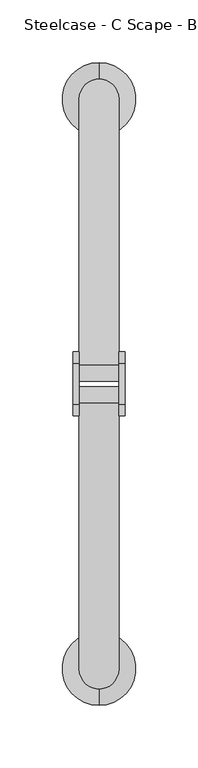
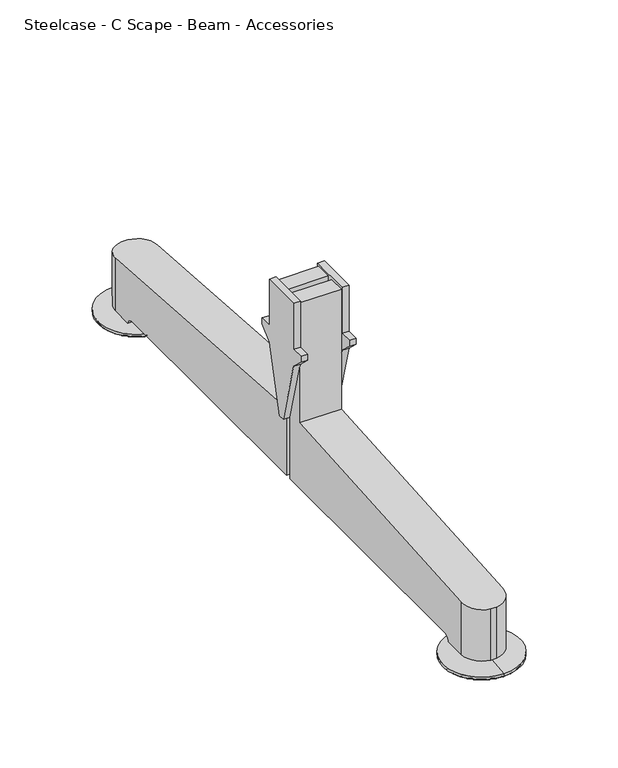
"""IFC4 building model written with IfcOpenShell, lengths in millimetres: furniture geometry, Steelcase - C Scape - Beam - Accessories : Beam Foor T."""

from ifc_helpers import new_model, si_unit, point, frame, origin, place, context, project, spatial, polyline, circle_curve, ellipse_curve, trimmed, source, transform, mapped, element, save
from ifc_brep_helpers import plane_surface, cylinder_surface, revolved_surface, advanced_brep


def steelcase_c_scape_beam_accessories_165df708(model_context):
    return source(origin(), model_context, "Body", "AdvancedBrep", [
        advanced_brep(
        [(86.3596898, 237.0625704, 8.1788), (86.3596898, 218.3235091, 8.1788), (86.3596898, 227.6930398, 8.1788), (86.3596898, 237.0625704, 6.3780266), (86.3596898, 218.3235091, 6.3780266), (86.3596898, 257.08722, 4.4952124), (86.3596898, 198.2988595, 4.4952124), (86.3596898, 257.08722, 2.4919794), (86.3596898, 198.2988595, 2.4919794), (86.3596898, 256.1924817, 1.9543664), (86.3596898, 199.1935978, 1.9543664), (86.3596898, 255.6762602, 1.2438485), (86.3596898, 199.7098193, 1.2438485), (86.3596898, 253.6061487, 0.0), (86.3596898, 201.7799309, 0.0), (86.3596898, 227.6930398, 0.0)],
        [
            (0, 1, circle_curve(frame((86.3596898, 227.6930398, 8.1788), z_axis=(0.0, 0.0, 1.0), x_axis=(0.0, -1.0, 0.0)), 9.3695306)),
            (1, 2),
            (2, 0),
            (1, 0, circle_curve(frame((86.3596898, 227.6930398, 8.1788), z_axis=(0.0, 0.0, 1.0), x_axis=(0.0, -1.0, 0.0)), 9.3695306)),
            (0, 3),
            (3, 4, circle_curve(frame((86.3596898, 227.6930398, 6.3780266), z_axis=(0.0, 0.0, 1.0), x_axis=(0.0, -1.0, 0.0)), 9.3695306)),
            (4, 1),
            (4, 3, circle_curve(frame((86.3596898, 227.6930398, 6.3780266), z_axis=(0.0, 0.0, 1.0), x_axis=(0.0, -1.0, 0.0)), 9.3695306)),
            (3, 5, circle_curve(frame((86.3596898, 218.5205959, -298.2523056), z_axis=(-1.0, 0.0, 0.0), x_axis=(0.0, -1.0, 0.0)), 305.1941089)),
            (5, 6, circle_curve(frame((86.3596898, 227.6930398, 4.4952124), z_axis=(0.0, 0.0, 1.0), x_axis=(0.0, -1.0, 0.0)), 29.3941803)),
            (6, 4, circle_curve(frame((86.3596898, 236.8654837, -298.2523056), z_axis=(-1.0, 0.0, 0.0), x_axis=(0.0, 1.0, 0.0)), 305.1941089)),
            (6, 5, circle_curve(frame((86.3596898, 227.6930398, 4.4952124), z_axis=(0.0, 0.0, 1.0), x_axis=(0.0, -1.0, 0.0)), 29.3941803)),
            (5, 7),
            (7, 8, circle_curve(frame((86.3596898, 227.6930398, 2.4919794), z_axis=(0.0, 0.0, 1.0), x_axis=(0.0, -1.0, 0.0)), 29.3941803)),
            (8, 6),
            (8, 7, circle_curve(frame((86.3596898, 227.6930398, 2.4919794), z_axis=(0.0, 0.0, 1.0), x_axis=(0.0, -1.0, 0.0)), 29.3941803)),
            (7, 9, circle_curve(frame((86.3596898, 257.0906771, 1.4728721), z_axis=(1.0, 0.0, 0.0), x_axis=(0.0, -1.0, 0.0)), 1.0191132)),
            (9, 10, circle_curve(frame((86.3596898, 227.6930398, 1.9543664), z_axis=(0.0, 0.0, 1.0), x_axis=(0.0, -1.0, 0.0)), 28.4994419)),
            (10, 8, circle_curve(frame((86.3596898, 198.2954025, 1.4728721), z_axis=(1.0, 0.0, 0.0), x_axis=(0.0, 1.0, 0.0)), 1.0191132)),
            (10, 9, circle_curve(frame((86.3596898, 227.6930398, 1.9543664), z_axis=(0.0, 0.0, 1.0), x_axis=(0.0, -1.0, 0.0)), 28.4994419)),
            (9, 11, circle_curve(frame((86.3596898, 254.4948288, 2.644996), z_axis=(-1.0, 0.0, 0.0), x_axis=(0.0, -1.0, 0.0)), 1.832756)),
            (11, 12, circle_curve(frame((86.3596898, 227.6930398, 1.2438485), z_axis=(0.0, 0.0, 1.0), x_axis=(0.0, -1.0, 0.0)), 27.9832205)),
            (12, 10, circle_curve(frame((86.3596898, 200.8912507, 2.644996), z_axis=(-1.0, 0.0, 0.0), x_axis=(0.0, 1.0, 0.0)), 1.832756)),
            (12, 11, circle_curve(frame((86.3596898, 227.6930398, 1.2438485), z_axis=(0.0, 0.0, 1.0), x_axis=(0.0, -1.0, 0.0)), 27.9832205)),
            (11, 13),
            (13, 14, circle_curve(frame((86.3596898, 227.6930398, 0.0), z_axis=(0.0, 0.0, 1.0), x_axis=(0.0, -1.0, 0.0)), 25.9131089)),
            (14, 12),
            (14, 13, circle_curve(frame((86.3596898, 227.6930398, 0.0), z_axis=(0.0, 0.0, 1.0), x_axis=(0.0, -1.0, 0.0)), 25.9131089)),
            (13, 15),
            (15, 14),
        ],
        [
            plane_surface(frame((86.3596898, 227.6930398, 8.1788), z_axis=(0.0, 0.0, 1.0), x_axis=(0.0, -1.0, 0.0))),
            cylinder_surface(frame((86.3596898, 227.6930398, 0.8789446), z_axis=(0.0, 0.0, -1.0), x_axis=(0.0, -1.0, 0.0)), 9.3695306),
            revolved_surface(trimmed(ellipse_curve(frame((86.3596898, 236.8654837, -298.2523056), z_axis=(1.0, 0.0, 0.0), x_axis=(0.0, 1.0, 0.0)), 305.1941089, 305.1941089), [point((86.3596898, 218.3235091, 6.3780266))], [point((86.3596898, 198.2988595, 4.4952124))], True, "CARTESIAN"), (86.3596898, 227.6930398, 0.8789446), (0.0, 0.0, -1.0)),
            cylinder_surface(frame((86.3596898, 227.6930398, 0.8789446), z_axis=(0.0, 0.0, -1.0), x_axis=(0.0, -1.0, 0.0)), 29.3941803),
            revolved_surface(trimmed(ellipse_curve(frame((86.3596898, 198.2954025, 1.4728721), z_axis=(-1.0, 0.0, 0.0), x_axis=(0.0, 1.0, 0.0)), 1.0191132, 1.0191132), [point((86.3596898, 198.2988595, 2.4919794))], [point((86.3596898, 199.1935978, 1.9543664))], True, "CARTESIAN"), (86.3596898, 227.6930398, 0.8789446), (0.0, 0.0, -1.0)),
            revolved_surface(trimmed(ellipse_curve(frame((86.3596898, 200.8912507, 2.644996), z_axis=(1.0, 0.0, 0.0), x_axis=(0.0, 1.0, 0.0)), 1.832756, 1.832756), [point((86.3596898, 199.1935978, 1.9543664))], [point((86.3596898, 199.7098193, 1.2438485))], True, "CARTESIAN"), (86.3596898, 227.6930398, 0.8789446), (0.0, 0.0, -1.0)),
            revolved_surface(polyline([(86.3596898, 199.7098193, 1.2438485), (86.3596898, 201.7799309, 0.0)]), (86.3596898, 227.6930398, 0.8789446), (0.0, 0.0, -1.0)),
            plane_surface(frame((86.3596898, 227.6930398, 0.0), z_axis=(0.0, 0.0, -1.0), x_axis=(0.0, -1.0, 0.0))),
        ],
        [
            (0, [[1, 2, 3]]),
            (0, [[-2, 4, -3]]),
            (1, [[-1, 5, 6, 7]]),
            (1, [[-4, -7, 8, -5]]),
            (2, [[-6, 9, 10, 11]]),
            (2, [[-8, -11, 12, -9]]),
            (3, [[-10, 13, 14, 15]]),
            (3, [[-12, -15, 16, -13]]),
            (4, [[-14, 17, 18, 19]]),
            (4, [[-16, -19, 20, -17]]),
            (5, [[-18, 21, 22, 23]]),
            (5, [[-20, -23, 24, -21]]),
            (6, [[-22, 25, 26, 27]]),
            (6, [[-24, -27, 28, -25]]),
            (7, [[-26, 29, 30]]),
            (7, [[-28, -30, -29]]),
        ],
    ),
        advanced_brep(
        [(86.3596898, -253.6061487, 0.0), (86.3596898, -201.7799309, 0.0), (86.3596898, -227.6930398, 0.0), (86.3596898, -255.6762602, 1.2438485), (86.3596898, -199.7098193, 1.2438485), (86.3596898, -256.1924817, 1.9543664), (86.3596898, -199.1935978, 1.9543664), (86.3596898, -257.08722, 2.4919794), (86.3596898, -198.2988595, 2.4919794), (86.3596898, -257.08722, 4.4952124), (86.3596898, -198.2988595, 4.4952124), (86.3596898, -237.0625704, 6.3780266), (86.3596898, -218.3235091, 6.3780266), (86.3596898, -237.0625704, 8.1788), (86.3596898, -218.3235091, 8.1788), (86.3596898, -227.6930398, 8.1788)],
        [
            (0, 1, circle_curve(frame((86.3596898, -227.6930398, 0.0), z_axis=(0.0, 0.0, -1.0), x_axis=(0.0, 1.0, 0.0)), 25.9131089)),
            (1, 2),
            (2, 0),
            (1, 0, circle_curve(frame((86.3596898, -227.6930398, 0.0), z_axis=(0.0, 0.0, -1.0), x_axis=(0.0, 1.0, 0.0)), 25.9131089)),
            (0, 3),
            (3, 4, circle_curve(frame((86.3596898, -227.6930398, 1.2438485), z_axis=(0.0, 0.0, -1.0), x_axis=(0.0, 1.0, 0.0)), 27.9832205)),
            (4, 1),
            (4, 3, circle_curve(frame((86.3596898, -227.6930398, 1.2438485), z_axis=(0.0, 0.0, -1.0), x_axis=(0.0, 1.0, 0.0)), 27.9832205)),
            (3, 5, circle_curve(frame((86.3596898, -254.4948288, 2.644996), z_axis=(-1.0, 0.0, 0.0), x_axis=(0.0, 1.0, 0.0)), 1.832756)),
            (5, 6, circle_curve(frame((86.3596898, -227.6930398, 1.9543664), z_axis=(0.0, 0.0, -1.0), x_axis=(0.0, 1.0, 0.0)), 28.4994419)),
            (6, 4, circle_curve(frame((86.3596898, -200.8912507, 2.644996), z_axis=(-1.0, 0.0, 0.0), x_axis=(0.0, -1.0, 0.0)), 1.832756)),
            (6, 5, circle_curve(frame((86.3596898, -227.6930398, 1.9543664), z_axis=(0.0, 0.0, -1.0), x_axis=(0.0, 1.0, 0.0)), 28.4994419)),
            (5, 7, circle_curve(frame((86.3596898, -257.0906771, 1.4728721), z_axis=(1.0, 0.0, 0.0), x_axis=(0.0, 1.0, 0.0)), 1.0191132)),
            (7, 8, circle_curve(frame((86.3596898, -227.6930398, 2.4919794), z_axis=(0.0, 0.0, -1.0), x_axis=(0.0, 1.0, 0.0)), 29.3941803)),
            (8, 6, circle_curve(frame((86.3596898, -198.2954025, 1.4728721), z_axis=(1.0, 0.0, 0.0), x_axis=(0.0, -1.0, 0.0)), 1.0191132)),
            (8, 7, circle_curve(frame((86.3596898, -227.6930398, 2.4919794), z_axis=(0.0, 0.0, -1.0), x_axis=(0.0, 1.0, 0.0)), 29.3941803)),
            (7, 9),
            (9, 10, circle_curve(frame((86.3596898, -227.6930398, 4.4952124), z_axis=(0.0, 0.0, -1.0), x_axis=(0.0, 1.0, 0.0)), 29.3941803)),
            (10, 8),
            (10, 9, circle_curve(frame((86.3596898, -227.6930398, 4.4952124), z_axis=(0.0, 0.0, -1.0), x_axis=(0.0, 1.0, 0.0)), 29.3941803)),
            (9, 11, circle_curve(frame((86.3596898, -218.5205959, -298.2523056), z_axis=(-1.0, 0.0, 0.0), x_axis=(0.0, 1.0, 0.0)), 305.1941089)),
            (11, 12, circle_curve(frame((86.3596898, -227.6930398, 6.3780266), z_axis=(0.0, 0.0, -1.0), x_axis=(0.0, 1.0, 0.0)), 9.3695306)),
            (12, 10, circle_curve(frame((86.3596898, -236.8654837, -298.2523056), z_axis=(-1.0, 0.0, 0.0), x_axis=(0.0, -1.0, 0.0)), 305.1941089)),
            (12, 11, circle_curve(frame((86.3596898, -227.6930398, 6.3780266), z_axis=(0.0, 0.0, -1.0), x_axis=(0.0, 1.0, 0.0)), 9.3695306)),
            (11, 13),
            (13, 14, circle_curve(frame((86.3596898, -227.6930398, 8.1788), z_axis=(0.0, 0.0, -1.0), x_axis=(0.0, 1.0, 0.0)), 9.3695306)),
            (14, 12),
            (14, 13, circle_curve(frame((86.3596898, -227.6930398, 8.1788), z_axis=(0.0, 0.0, -1.0), x_axis=(0.0, 1.0, 0.0)), 9.3695306)),
            (13, 15),
            (15, 14),
        ],
        [
            plane_surface(frame((86.3596898, -227.6930398, 0.0), z_axis=(0.0, 0.0, -1.0), x_axis=(0.0, 1.0, 0.0))),
            revolved_surface(polyline([(86.3596898, -201.7799309, 0.0), (86.3596898, -199.7098193, 1.2438485)]), (86.3596898, -227.6930398, 0.8789446), (0.0, 0.0, 1.0)),
            revolved_surface(trimmed(ellipse_curve(frame((86.3596898, -200.8912507, 2.644996), z_axis=(1.0, 0.0, 0.0), x_axis=(0.0, -1.0, 0.0)), 1.832756, 1.832756), [point((86.3596898, -199.7098193, 1.2438485))], [point((86.3596898, -199.1935978, 1.9543664))], True, "CARTESIAN"), (86.3596898, -227.6930398, 0.8789446), (0.0, 0.0, 1.0)),
            revolved_surface(trimmed(ellipse_curve(frame((86.3596898, -198.2954025, 1.4728721), z_axis=(-1.0, 0.0, 0.0), x_axis=(0.0, -1.0, 0.0)), 1.0191132, 1.0191132), [point((86.3596898, -199.1935978, 1.9543664))], [point((86.3596898, -198.2988595, 2.4919794))], True, "CARTESIAN"), (86.3596898, -227.6930398, 0.8789446), (0.0, 0.0, 1.0)),
            cylinder_surface(frame((86.3596898, -227.6930398, 0.8789446), z_axis=(0.0, 0.0, 1.0), x_axis=(0.0, 1.0, 0.0)), 29.3941803),
            revolved_surface(trimmed(ellipse_curve(frame((86.3596898, -236.8654837, -298.2523056), z_axis=(1.0, 0.0, 0.0), x_axis=(0.0, -1.0, 0.0)), 305.1941089, 305.1941089), [point((86.3596898, -198.2988595, 4.4952124))], [point((86.3596898, -218.3235091, 6.3780266))], True, "CARTESIAN"), (86.3596898, -227.6930398, 0.8789446), (0.0, 0.0, 1.0)),
            cylinder_surface(frame((86.3596898, -227.6930398, 0.8789446), z_axis=(0.0, 0.0, 1.0), x_axis=(0.0, 1.0, 0.0)), 9.3695306),
            plane_surface(frame((86.3596898, -227.6930398, 8.1788), z_axis=(0.0, 0.0, 1.0), x_axis=(0.0, 1.0, 0.0))),
        ],
        [
            (0, [[1, 2, 3]]),
            (0, [[-2, 4, -3]]),
            (1, [[-1, 5, 6, 7]]),
            (1, [[-4, -7, 8, -5]]),
            (2, [[-6, 9, 10, 11]]),
            (2, [[-8, -11, 12, -9]]),
            (3, [[-10, 13, 14, 15]]),
            (3, [[-12, -15, 16, -13]]),
            (4, [[-14, 17, 18, 19]]),
            (4, [[-16, -19, 20, -17]]),
            (5, [[-18, 21, 22, 23]]),
            (5, [[-20, -23, 24, -21]]),
            (6, [[-22, 25, 26, 27]]),
            (6, [[-24, -27, 28, -25]]),
            (7, [[-26, 29, 30]]),
            (7, [[-28, -30, -29]]),
        ],
    ),
        advanced_brep(
        [(102.235, -211.6823126, 8.1788), (102.235, -205.5990784, 12.7), (102.235, -2.4013595, 12.7), (102.235, -2.4013595, 62.357), (102.235, -15.0990784, 109.5607565), (102.235, -15.0990784, 65.3289571), (102.235, -227.9697695, 50.4435884), (102.235, -227.9697695, 8.1788), (70.485, -205.5990784, 12.7), (70.485, -211.6823126, 8.1788), (70.485, -227.9697695, 8.1788), (70.485, -227.9697695, 50.4435884), (70.485, -15.0990784, 65.3289571), (70.485, -15.0990784, 109.5607565), (70.485, -2.4013595, 62.357), (70.485, -2.4013595, 12.7), (88.4711489, -243.7037669, 49.3433601), (84.2488511, -243.7037669, 49.3433601), (84.2488511, -243.7037669, 8.1788), (88.4711489, -243.7037669, 8.1788), (102.235, 205.5990784, 12.7), (102.235, 211.6823126, 8.1788), (102.235, 227.9930239, 8.1788), (102.235, 227.9930239, 50.4419623), (102.235, 15.0990784, 65.3289571), (102.235, 15.0874978, 109.6526551), (102.235, 2.3738405, 62.357), (102.235, 2.3738405, 12.7), (70.485, 211.6823126, 8.1788), (70.485, 205.5990784, 12.7), (70.485, 2.3738405, 12.7), (70.485, 2.3738405, 62.357), (70.485, 15.0874978, 109.6526551), (70.485, 15.0990784, 65.3289571), (70.485, 227.9930239, 50.4419623), (70.485, 227.9930239, 8.1788), (88.6377573, 243.7037669, 49.3433601), (84.0822427, 243.7037669, 49.3433601), (84.0822427, 243.7037669, 8.1788), (88.6377573, 243.7037669, 8.1788), (102.235, -2.4013595, 161.925), (70.485, -2.4013595, 161.925), (70.485, -15.0990784, 161.925), (102.235, -15.0990784, 161.925), (102.235, 15.0738405, 161.925), (70.485, 15.0738405, 161.925), (70.485, 2.3738405, 161.925), (102.235, 2.3738405, 161.925), (107.315267, -16.0664612, 163.9569981), (107.315267, -16.0664612, 126.999997), (107.315267, -25.5914612, 126.999997), (107.315267, -25.5914612, 122.2247979), (107.315267, -16.0664612, 113.1570011), (107.315267, -2.4013595, 62.357), (107.315267, 2.3738405, 62.357), (107.315267, 16.0226444, 113.131463), (107.315267, 25.6147156, 122.2247979), (107.315267, 25.6147156, 126.999997), (107.315267, 16.0664612, 126.999997), (107.315267, 16.0664612, 163.9569981), (102.235267, -16.0664612, 163.9569981), (102.235267, 16.0664612, 163.9569981), (102.235267, 16.0664612, 126.999997), (102.235267, 25.6147156, 126.999997), (102.235267, 25.6147156, 122.2247979), (102.235267, 16.0226444, 113.131463), (102.235267, -16.0664612, 113.1570011), (102.235267, -25.5914612, 122.2247979), (102.235267, -25.5914612, 126.999997), (102.235267, -16.0664612, 126.999997), (70.485, -16.0664612, 163.9569981), (70.485, -16.0664612, 126.999997), (70.485, -25.5914612, 126.999997), (70.485, -25.5914612, 122.2247979), (70.485, -16.0664612, 113.1570011), (70.485, 16.0226444, 113.131463), (70.485, 25.6147156, 122.2247979), (70.485, 25.6147156, 126.999997), (70.485, 16.0664612, 126.999997), (70.485, 16.0664612, 163.9569981), (65.405, -16.0664612, 163.9569981), (65.405, 16.0664612, 163.9569981), (65.405, 16.0664612, 126.999997), (65.405, 25.6147156, 126.999997), (65.405, 25.6147156, 122.2247979), (65.405, 16.0226444, 113.131463), (65.405, 2.3738405, 62.357), (65.405, -2.4013595, 62.357), (65.405, -16.0664612, 113.1570011), (65.405, -25.5914612, 122.2247979), (65.405, -25.5914612, 126.999997), (65.405, -16.0664612, 126.999997)],
        [
            (0, 1, circle_curve(frame((102.235, -205.5990784, 6.3469313), z_axis=(-1.0, 0.0, 0.0), x_axis=(0.0, -1.0, 0.0)), 6.3530687)),
            (1, 2),
            (2, 3),
            (3, 4),
            (4, 5),
            (5, 6),
            (6, 7),
            (7, 0),
            (8, 9, circle_curve(frame((70.485, -205.5990784, 6.3469313), z_axis=(1.0, 0.0, 0.0), x_axis=(0.0, -1.0, 0.0)), 6.3530687)),
            (9, 10),
            (10, 11),
            (11, 12),
            (12, 13),
            (13, 14),
            (14, 15),
            (15, 8),
            (16, 17),
            (17, 18),
            (18, 19),
            (19, 16),
            (9, 0),
            (7, 19, circle_curve(frame((86.36, -227.9697695, 8.1788), z_axis=(0.0, 0.0, -1.0), x_axis=(1.0, 0.0, 0.0)), 15.875)),
            (18, 10, circle_curve(frame((86.36, -227.9697695, 8.1788), z_axis=(0.0, 0.0, -1.0), x_axis=(1.0, 0.0, 0.0)), 15.875)),
            (8, 1),
            (15, 2),
            (5, 12),
            (11, 17, ellipse_curve(frame((86.36, -227.9697695, 50.4435884), z_axis=(0.0, -0.06975647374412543, 0.9975640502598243), x_axis=(0.0, -0.9975640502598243, -0.06975647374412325)), 15.9137651, 15.875)),
            (16, 6, ellipse_curve(frame((86.36, -227.9697695, 50.4435884), z_axis=(0.0, -0.06975647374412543, 0.9975640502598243), x_axis=(0.0, -0.9975640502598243, -0.06975647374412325)), 15.9137651, 15.875)),
            (20, 21, circle_curve(frame((102.235, 205.5990784, 6.3469313), z_axis=(-1.0, 0.0, 0.0), x_axis=(0.0, 1.0, 0.0)), 6.3530687)),
            (21, 22),
            (22, 23),
            (23, 24),
            (24, 25),
            (25, 26),
            (26, 27),
            (27, 20),
            (28, 29, circle_curve(frame((70.485, 205.5990784, 6.3469313), z_axis=(1.0, 0.0, 0.0), x_axis=(0.0, 1.0, 0.0)), 6.3530687)),
            (29, 30),
            (30, 31),
            (31, 32),
            (32, 33),
            (33, 34),
            (34, 35),
            (35, 28),
            (23, 36, ellipse_curve(frame((86.36, 227.9930239, 50.4419623), z_axis=(0.0, 0.06975647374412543, 0.9975640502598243), x_axis=(0.0, 0.9975640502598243, -0.06975647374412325)), 15.9137651, 15.875)),
            (36, 37),
            (37, 34, ellipse_curve(frame((86.36, 227.9930239, 50.4419623), z_axis=(0.0, 0.06975647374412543, 0.9975640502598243), x_axis=(0.0, 0.9975640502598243, -0.06975647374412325)), 15.9137651, 15.875)),
            (33, 24),
            (29, 20),
            (27, 30),
            (28, 21),
            (35, 38, circle_curve(frame((86.36, 227.9930239, 8.1788), z_axis=(0.0, 0.0, -1.0), x_axis=(1.0, 0.0, 0.0)), 15.875)),
            (38, 39),
            (39, 22, circle_curve(frame((86.36, 227.9930239, 8.1788), z_axis=(0.0, 0.0, -1.0), x_axis=(1.0, 0.0, 0.0)), 15.875)),
            (36, 39),
            (38, 37),
            (40, 41),
            (41, 42),
            (42, 43),
            (43, 40),
            (42, 13),
            (4, 43),
            (40, 3),
            (14, 41),
            (44, 45),
            (45, 46),
            (46, 47),
            (47, 44),
            (46, 31),
            (26, 47),
            (44, 25),
            (32, 45),
            (48, 49),
            (49, 50),
            (50, 51),
            (51, 52),
            (52, 53),
            (53, 54),
            (54, 55),
            (55, 56),
            (56, 57),
            (57, 58),
            (58, 59),
            (59, 48),
            (60, 61),
            (61, 62),
            (62, 63),
            (63, 64),
            (64, 65),
            (65, 25),
            (26, 3),
            (4, 66),
            (66, 67),
            (67, 68),
            (68, 69),
            (69, 60),
            (48, 60),
            (69, 49),
            (68, 50),
            (67, 51),
            (66, 52),
            (3, 53),
            (26, 54),
            (65, 55),
            (64, 56),
            (63, 57),
            (62, 58),
            (61, 59),
            (70, 71),
            (71, 72),
            (72, 73),
            (73, 74),
            (74, 13),
            (14, 31),
            (32, 75),
            (75, 76),
            (76, 77),
            (77, 78),
            (78, 79),
            (79, 70),
            (80, 81),
            (81, 82),
            (82, 83),
            (83, 84),
            (84, 85),
            (85, 86),
            (86, 87),
            (87, 88),
            (88, 89),
            (89, 90),
            (90, 91),
            (91, 80),
            (70, 80),
            (91, 71),
            (90, 72),
            (89, 73),
            (88, 74),
            (87, 14),
            (86, 31),
            (85, 75),
            (84, 76),
            (83, 77),
            (82, 78),
            (81, 79),
        ],
        [
            plane_surface(frame((102.235, -243.7037669, 50.4618626), z_axis=(1.0, 0.0, 0.0), x_axis=(0.0, 0.0, -1.0))),
            plane_surface(frame((70.485, -243.7037669, 50.4618626), z_axis=(-1.0, 0.0, 0.0), x_axis=(0.0, 0.0, 1.0))),
            plane_surface(frame((102.235, -243.7037669, 49.3433601), z_axis=(0.0, -1.0, 0.0), x_axis=(-1.0, 0.0, 0.0))),
            plane_surface(frame((102.235, -243.7037669, 8.1788), z_axis=(0.0, 0.0, -1.0), x_axis=(-1.0, 0.0, 0.0))),
            revolved_surface(polyline([(70.485, -211.9521471, 6.3469313), (102.235, -211.9521471, 6.3469313)]), (70.485, -205.5990784, 6.3469313), (-1.0, 0.0, 0.0)),
            plane_surface(frame((102.235, -205.5990784, 12.7), z_axis=(0.0, 0.0, -1.0), x_axis=(-1.0, 0.0, 0.0))),
            plane_surface(frame((102.235, -15.0990784, 65.3289571), z_axis=(0.0, -0.06975647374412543, 0.9975640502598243), x_axis=(-1.0, 0.0, 0.0))),
            cylinder_surface(frame((86.36, -227.9697695, 7.283261), z_axis=(0.0, 0.0, -1.0), x_axis=(1.0, 0.0, 0.0)), 15.875),
            plane_surface(frame((102.235, 15.0990784, 65.3289571), z_axis=(1.0000000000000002, 0.0, 0.0), x_axis=(0.0, -0.9975640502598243, 0.06975647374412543))),
            plane_surface(frame((70.485, 15.0990784, 65.3289571), z_axis=(-1.0000000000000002, 0.0, 0.0), x_axis=(0.0, 0.9975640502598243, -0.06975647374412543))),
            plane_surface(frame((102.235, 243.7037669, 49.3433601), z_axis=(0.0, 0.06975647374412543, 0.9975640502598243), x_axis=(-1.0, 0.0, 0.0))),
            plane_surface(frame((102.235, 15.0990784, 12.7), z_axis=(0.0, 0.0, -1.0), x_axis=(-1.0, 0.0, 0.0))),
            revolved_surface(polyline([(70.485, 211.9521471, 6.3469313), (102.235, 211.9521471, 6.3469313)]), (70.485, 205.5990784, 6.3469313), (-1.0, 0.0, 0.0)),
            plane_surface(frame((102.235, 211.6823126, 8.1788), z_axis=(0.0, 0.0, -1.0), x_axis=(-1.0, 0.0, 0.0))),
            plane_surface(frame((102.235, 243.7037669, 8.1788), z_axis=(0.0, 1.0, 0.0), x_axis=(-1.0, 0.0, 0.0))),
            cylinder_surface(frame((86.36, 227.9930239, 7.283261), z_axis=(0.0, 0.0, -1.0), x_axis=(1.0, 0.0, 0.0)), 15.875),
            plane_surface(frame((102.235, -2.4013595, 161.925), z_axis=(0.0, 0.0, 1.0), x_axis=(-1.0, 0.0, 0.0))),
            plane_surface(frame((102.235, -15.0990784, 161.925), z_axis=(0.0, -1.0, 0.0), x_axis=(-1.0, 0.0, 0.0))),
            plane_surface(frame((102.235, -2.4013595, 12.7), z_axis=(0.0, 1.0, 0.0), x_axis=(-1.0, 0.0, 0.0))),
            plane_surface(frame((102.235, 15.0738405, 161.925), z_axis=(0.0, 0.0, 1.0), x_axis=(-1.0, 0.0, 0.0))),
            plane_surface(frame((102.235, 2.3738405, 161.925), z_axis=(0.0, -1.0, 0.0), x_axis=(-1.0, 0.0, 0.0))),
            plane_surface(frame((102.235, 15.0738405, 12.7), z_axis=(0.0, 1.0, 0.0), x_axis=(-1.0, 0.0, 0.0))),
            plane_surface(frame((107.315267, -16.0664612, 163.9569981), z_axis=(1.0, 0.0, 0.0), x_axis=(0.0, 0.0, -1.0))),
            plane_surface(frame((102.235267, -16.0664612, 163.9569981), z_axis=(-1.0, 0.0, 0.0), x_axis=(0.0, 0.0, 1.0))),
            plane_surface(frame((107.315267, -16.0664612, 163.9569981), z_axis=(0.0, -1.0, 0.0), x_axis=(-1.0, 0.0, 0.0))),
            plane_surface(frame((107.315267, -16.0664612, 126.999997), z_axis=(0.0, 0.0, 1.0), x_axis=(-1.0, 0.0, 0.0))),
            plane_surface(frame((107.315267, -25.5914612, 126.999997), z_axis=(0.0, -1.0, 0.0), x_axis=(-1.0, 0.0, 0.0))),
            plane_surface(frame((107.315267, -25.5914612, 122.2247979), z_axis=(0.0, -0.6895103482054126, -0.7242758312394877), x_axis=(-1.0, 0.0, 0.0))),
            plane_surface(frame((107.315267, -16.0664612, 113.1570011), z_axis=(0.0, -0.9656721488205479, -0.25976393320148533), x_axis=(-1.0, 0.0, 0.0))),
            plane_surface(frame((107.315267, -2.4013595, 62.357), z_axis=(0.0, 0.0, -1.0), x_axis=(-1.0, 0.0, 0.0))),
            plane_surface(frame((107.315267, 2.3738405, 62.357), z_axis=(0.0, 0.9657171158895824, -0.2595967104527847), x_axis=(-1.0, 0.0, 0.0))),
            plane_surface(frame((107.315267, 16.0226444, 113.131463), z_axis=(0.0, 0.6879882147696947, -0.7257218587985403), x_axis=(-1.0, 0.0, 0.0))),
            plane_surface(frame((107.315267, 25.6147156, 122.2247979), z_axis=(0.0, 1.0, 0.0), x_axis=(-1.0, 0.0, 0.0))),
            plane_surface(frame((107.315267, 25.6147156, 126.999997), z_axis=(0.0, 0.0, 1.0), x_axis=(-1.0, 0.0, 0.0))),
            plane_surface(frame((107.315267, 16.0664612, 126.999997), z_axis=(0.0, 1.0, 0.0), x_axis=(-1.0, 0.0, 0.0))),
            plane_surface(frame((107.315267, 16.0664612, 163.9569981), z_axis=(0.0, 0.0, 1.0), x_axis=(-1.0, 0.0, 0.0))),
            plane_surface(frame((70.485, -16.0664612, 163.9569981), z_axis=(1.0, 0.0, 0.0), x_axis=(0.0, 0.0, -1.0))),
            plane_surface(frame((65.405, -16.0664612, 163.9569981), z_axis=(-1.0, 0.0, 0.0), x_axis=(0.0, 0.0, 1.0))),
            plane_surface(frame((70.485, -16.0664612, 163.9569981), z_axis=(0.0, -1.0, 0.0), x_axis=(-1.0, 0.0, 0.0))),
            plane_surface(frame((70.485, -16.0664612, 126.999997), z_axis=(0.0, 0.0, 1.0), x_axis=(-1.0, 0.0, 0.0))),
            plane_surface(frame((70.485, -25.5914612, 126.999997), z_axis=(0.0, -1.0, 0.0), x_axis=(-1.0, 0.0, 0.0))),
            plane_surface(frame((70.485, -25.5914612, 122.2247979), z_axis=(0.0, -0.6895103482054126, -0.7242758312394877), x_axis=(-1.0, 0.0, 0.0))),
            plane_surface(frame((70.485, -16.0664612, 113.1570011), z_axis=(0.0, -0.9656721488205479, -0.25976393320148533), x_axis=(-1.0, 0.0, 0.0))),
            plane_surface(frame((70.485, -2.4013595, 62.357), z_axis=(0.0, 0.0, -1.0), x_axis=(-1.0, 0.0, 0.0))),
            plane_surface(frame((70.485, 2.3738405, 62.357), z_axis=(0.0, 0.9657171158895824, -0.2595967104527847), x_axis=(-1.0, 0.0, 0.0))),
            plane_surface(frame((70.485, 16.0226444, 113.131463), z_axis=(0.0, 0.6879882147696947, -0.7257218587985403), x_axis=(-1.0, 0.0, 0.0))),
            plane_surface(frame((70.485, 25.6147156, 122.2247979), z_axis=(0.0, 1.0, 0.0), x_axis=(-1.0, 0.0, 0.0))),
            plane_surface(frame((70.485, 25.6147156, 126.999997), z_axis=(0.0, 0.0, 1.0), x_axis=(-1.0, 0.0, 0.0))),
            plane_surface(frame((70.485, 16.0664612, 126.999997), z_axis=(0.0, 1.0, 0.0), x_axis=(-1.0, 0.0, 0.0))),
            plane_surface(frame((70.485, 16.0664612, 163.9569981), z_axis=(0.0, 0.0, 1.0), x_axis=(-1.0, 0.0, 0.0))),
        ],
        [
            (0, [[1, 2, 3, 4, 5, 6, 7, 8]]),
            (1, [[9, 10, 11, 12, 13, 14, 15, 16]]),
            (2, [[17, 18, 19, 20]]),
            (3, [[21, -8, 22, -19, 23, -10]]),
            (4, [[-1, -21, -9, 24]]),
            (5, [[-24, -16, 25, -2]]),
            (6, [[-6, 26, -12, 27, -17, 28]]),
            (7, [[-7, -28, -20, -22]]),
            (7, [[-11, -23, -18, -27]]),
            (8, [[29, 30, 31, 32, 33, 34, 35, 36]]),
            (9, [[37, 38, 39, 40, 41, 42, 43, 44]]),
            (10, [[-32, 45, 46, 47, -42, 48]]),
            (11, [[49, -36, 50, -38]]),
            (12, [[-29, -49, -37, 51]]),
            (13, [[-51, -44, 52, 53, 54, -30]]),
            (14, [[-46, 55, -53, 56]]),
            (15, [[-31, -54, -55, -45]]),
            (15, [[-43, -47, -56, -52]]),
            (16, [[57, 58, 59, 60]]),
            (17, [[-59, 61, -13, -26, -5, 62]]),
            (18, [[-57, 63, -3, -25, -15, 64]]),
            (19, [[65, 66, 67, 68]]),
            (20, [[-67, 69, -39, -50, -35, 70]]),
            (21, [[-65, 71, -33, -48, -41, 72]]),
            (22, [[73, 74, 75, 76, 77, 78, 79, 80, 81, 82, 83, 84]]),
            (23, [[85, 86, 87, 88, 89, 90, -71, -68, -70, 91, -63, -60, -62, 92, 93, 94, 95, 96]]),
            (24, [[-73, 97, -96, 98]]),
            (25, [[-74, -98, -95, 99]]),
            (26, [[-75, -99, -94, 100]]),
            (27, [[-76, -100, -93, 101]]),
            (28, [[-77, -101, -92, -4, 102]]),
            (29, [[-78, -102, -91, 103]]),
            (30, [[-79, -103, -34, -90, 104]]),
            (31, [[-80, -104, -89, 105]]),
            (32, [[-81, -105, -88, 106]]),
            (33, [[-82, -106, -87, 107]]),
            (34, [[-83, -107, -86, 108]]),
            (35, [[-84, -108, -85, -97]]),
            (36, [[109, 110, 111, 112, 113, -61, -58, -64, 114, -69, -66, -72, 115, 116, 117, 118, 119, 120]]),
            (37, [[121, 122, 123, 124, 125, 126, 127, 128, 129, 130, 131, 132]]),
            (38, [[-109, 133, -132, 134]]),
            (39, [[-110, -134, -131, 135]]),
            (40, [[-111, -135, -130, 136]]),
            (41, [[-112, -136, -129, 137]]),
            (42, [[-128, 138, -14, -113, -137]]),
            (43, [[-114, -138, -127, 139]]),
            (44, [[-126, 140, -115, -40, -139]]),
            (45, [[-116, -140, -125, 141]]),
            (46, [[-117, -141, -124, 142]]),
            (47, [[-118, -142, -123, 143]]),
            (48, [[-119, -143, -122, 144]]),
            (49, [[-120, -144, -121, -133]]),
        ],
    ),
    ])


if __name__ == "__main__":
    model = new_model("IFC4")
    model_context = context("Model", 3, world=origin())
    ifc_project = project(units=[si_unit("LENGTHUNIT", "METRE", prefix="MILLI")], contexts=[model_context])
    site = spatial("IfcSite", under=ifc_project)
    building = spatial("IfcBuilding", under=site)
    placement = place(None, origin())
    steelcase_c_scape_beam_accessories_shape = steelcase_c_scape_beam_accessories_165df708(model_context)
    element("IfcFurniture", 1, ObjectType="Steelcase - C Scape - Beam - Accessories : Beam Foor T", at=placement, inside=building, context=model_context, shape_type="MappedRepresentation", body=[
        mapped(steelcase_c_scape_beam_accessories_shape, transform((0.0, 0.0, 0.0), x_axis=(1.0, 0.0, 0.0), y_axis=(0.0, 1.0, 0.0), z_axis=(0.0, 0.0, 1.0))),
    ])
    save(model, "model.ifc")
